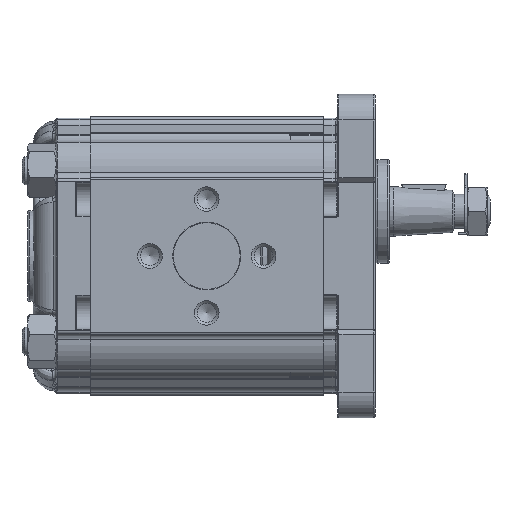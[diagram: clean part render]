
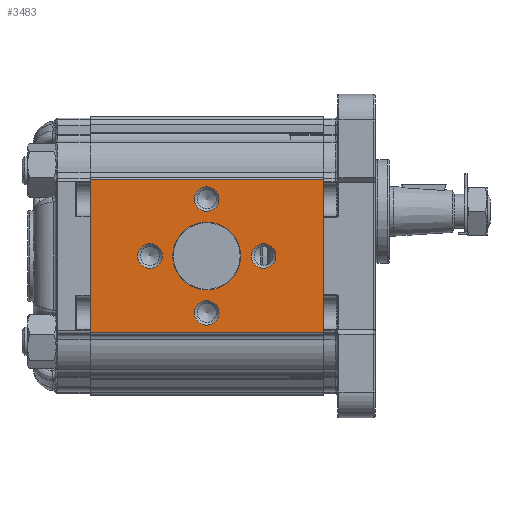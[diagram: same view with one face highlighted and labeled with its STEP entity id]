
A CAD part, left-side view. The second image highlights one B-rep face of the part: STEP entity #3483.
In plain terms, the highlighted planar face has unit normal (-1, 0, 0).
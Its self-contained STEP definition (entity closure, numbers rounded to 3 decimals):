
#3483 = ADVANCED_FACE( '', ( #7493, #7494, #7495, #7496, #7497, #7498 ), #7499, .T. );
#7493 = FACE_BOUND( '', #13857, .T. );
#7494 = FACE_BOUND( '', #13858, .T. );
#7495 = FACE_BOUND( '', #13859, .T. );
#7496 = FACE_BOUND( '', #13860, .T. );
#7497 = FACE_BOUND( '', #13861, .T. );
#7498 = FACE_OUTER_BOUND( '', #13862, .T. );
#7499 = PLANE( '', #13863 );
#13857 = EDGE_LOOP( '', ( #25031 ) );
#13858 = EDGE_LOOP( '', ( #25032 ) );
#13859 = EDGE_LOOP( '', ( #25033 ) );
#13860 = EDGE_LOOP( '', ( #25034 ) );
#13861 = EDGE_LOOP( '', ( #25035 ) );
#13862 = EDGE_LOOP( '', ( #25036, #25037, #25038, #25039 ) );
#13863 = AXIS2_PLACEMENT_3D( '', #25040, #25041, #25042 );
#25031 = ORIENTED_EDGE( '', *, *, #28994, .T. );
#25032 = ORIENTED_EDGE( '', *, *, #32721, .T. );
#25033 = ORIENTED_EDGE( '', *, *, #30220, .T. );
#25034 = ORIENTED_EDGE( '', *, *, #30802, .T. );
#25035 = ORIENTED_EDGE( '', *, *, #29528, .T. );
#25036 = ORIENTED_EDGE( '', *, *, #32540, .F. );
#25037 = ORIENTED_EDGE( '', *, *, #32722, .F. );
#25038 = ORIENTED_EDGE( '', *, *, #32578, .T. );
#25039 = ORIENTED_EDGE( '', *, *, #28671, .T. );
#25040 = CARTESIAN_POINT( '', ( -43., 82., 27.048 ) );
#25041 = DIRECTION( '', ( -1., 0., 0. ) );
#25042 = DIRECTION( '', ( 0., 0., 1. ) );
#28671 = EDGE_CURVE( '', #33597, #33594, #33598, .T. );
#28994 = EDGE_CURVE( '', #34163, #34163, #34164, .F. );
#29528 = EDGE_CURVE( '', #35083, #35083, #35084, .F. );
#30220 = EDGE_CURVE( '', #36209, #36209, #36210, .F. );
#30802 = EDGE_CURVE( '', #37104, #37104, #37105, .F. );
#32540 = EDGE_CURVE( '', #39454, #33594, #39456, .T. );
#32578 = EDGE_CURVE( '', #39501, #33597, #39502, .T. );
#32721 = EDGE_CURVE( '', #39665, #39665, #39666, .F. );
#32722 = EDGE_CURVE( '', #39501, #39454, #39667, .T. );
#33594 = VERTEX_POINT( '', #40820 );
#33597 = VERTEX_POINT( '', #40823 );
#33598 = LINE( '', #40824, #40825 );
#34163 = VERTEX_POINT( '', #42072 );
#34164 = CIRCLE( '', #42073, 4.324 );
#35083 = VERTEX_POINT( '', #43984 );
#35084 = CIRCLE( '', #43985, 11.95 );
#36209 = VERTEX_POINT( '', #46378 );
#36210 = CIRCLE( '', #46379, 4.324 );
#37104 = VERTEX_POINT( '', #48450 );
#37105 = CIRCLE( '', #48451, 4.324 );
#39454 = VERTEX_POINT( '', #53445 );
#39456 = LINE( '', #53447, #53448 );
#39501 = VERTEX_POINT( '', #53504 );
#39502 = LINE( '', #53505, #53506 );
#39665 = VERTEX_POINT( '', #53890 );
#39666 = CIRCLE( '', #53891, 4.324 );
#39667 = LINE( '', #53892, #53893 );
#40820 = CARTESIAN_POINT( '', ( -43., 0., -27.048 ) );
#40823 = CARTESIAN_POINT( '', ( -43., 82., -27.048 ) );
#40824 = CARTESIAN_POINT( '', ( -43., 82., -27.048 ) );
#40825 = VECTOR( '', #55354, 1000. );
#42072 = CARTESIAN_POINT( '', ( -43., 21., 4.324 ) );
#42073 = AXIS2_PLACEMENT_3D( '', #55832, #55833, #55834 );
#43984 = CARTESIAN_POINT( '', ( -43., 41., 11.95 ) );
#43985 = AXIS2_PLACEMENT_3D( '', #56441, #56442, #56443 );
#46378 = CARTESIAN_POINT( '', ( -43., 41., -15.677 ) );
#46379 = AXIS2_PLACEMENT_3D( '', #57316, #57317, #57318 );
#48450 = CARTESIAN_POINT( '', ( -43., 41., 24.324 ) );
#48451 = AXIS2_PLACEMENT_3D( '', #57998, #57999, #58000 );
#53445 = CARTESIAN_POINT( '', ( -43., 0., 27.048 ) );
#53447 = CARTESIAN_POINT( '', ( -43., 0., 27.048 ) );
#53448 = VECTOR( '', #59881, 1000. );
#53504 = CARTESIAN_POINT( '', ( -43., 82., 27.048 ) );
#53505 = CARTESIAN_POINT( '', ( -43., 82., 27.048 ) );
#53506 = VECTOR( '', #59941, 1000. );
#53890 = CARTESIAN_POINT( '', ( -43., 61., 4.324 ) );
#53891 = AXIS2_PLACEMENT_3D( '', #60065, #60066, #60067 );
#53892 = CARTESIAN_POINT( '', ( -43., 82., 27.048 ) );
#53893 = VECTOR( '', #60068, 1000. );
#55354 = DIRECTION( '', ( 0., -1., 0. ) );
#55832 = CARTESIAN_POINT( '', ( -43., 21., 0. ) );
#55833 = DIRECTION( '', ( -1., 0., 0. ) );
#55834 = DIRECTION( '', ( 0., 0., 1. ) );
#56441 = CARTESIAN_POINT( '', ( -43., 41., 0. ) );
#56442 = DIRECTION( '', ( -1., 0., 0. ) );
#56443 = DIRECTION( '', ( 0., 0., 1. ) );
#57316 = CARTESIAN_POINT( '', ( -43., 41., -20. ) );
#57317 = DIRECTION( '', ( -1., 0., 0. ) );
#57318 = DIRECTION( '', ( 0., 0., 1. ) );
#57998 = CARTESIAN_POINT( '', ( -43., 41., 20. ) );
#57999 = DIRECTION( '', ( -1., 0., 0. ) );
#58000 = DIRECTION( '', ( 0., 0., 1. ) );
#59881 = DIRECTION( '', ( 0., 0., -1. ) );
#59941 = DIRECTION( '', ( 0., 0., -1. ) );
#60065 = CARTESIAN_POINT( '', ( -43., 61., 0. ) );
#60066 = DIRECTION( '', ( -1., 0., 0. ) );
#60067 = DIRECTION( '', ( 0., 0., 1. ) );
#60068 = DIRECTION( '', ( 0., -1., 0. ) );
